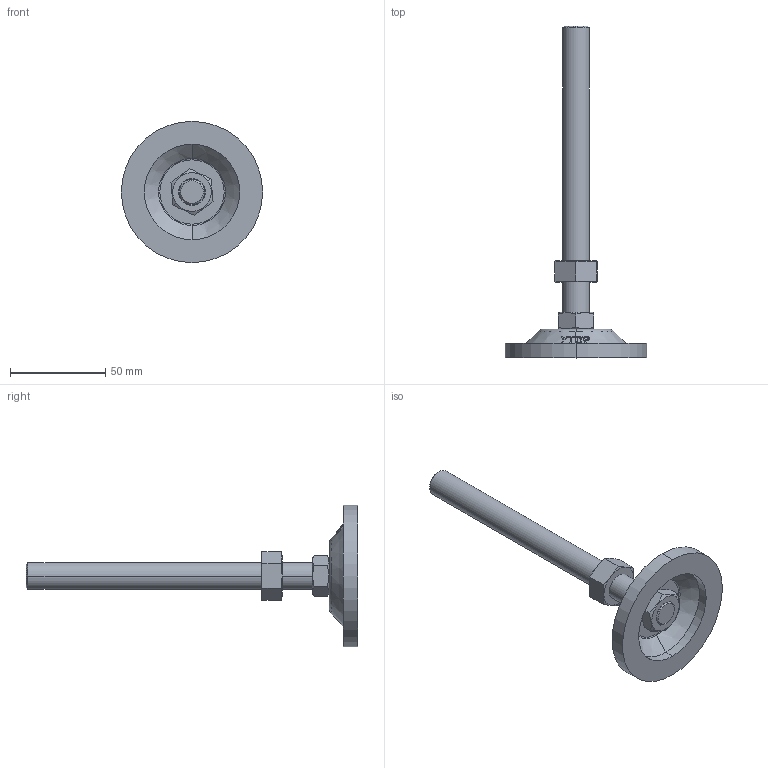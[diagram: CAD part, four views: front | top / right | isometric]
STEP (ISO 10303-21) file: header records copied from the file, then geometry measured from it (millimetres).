
FILE_DESCRIPTION (( 'STEP AP203' ), '1' );
FILE_NAME ('P-74-14150-BR.STEP', '2020-09-10T08:57:45', ( '' ), ( '' ), 'SwSTEP 2.0', 'SolidWorks 2016', '' );
FILE_SCHEMA (( 'CONFIG_CONTROL_DESIGN' ));
Length unit declared in the file: millimetre
Products named in the file (5): 脚垫调节六角螺母M14; hex thin nuts-grades ab-chamfered gb_GB_FASTENER_NUT_STNAB M14-N; P-74-14150-BR; 傲郈蹟裝M14炵蹈_M14X150; P-74-1菁釱-3P
Assembly tree (4 placements, depth 2):
  P-74-14150-BR
    P-74-1菁釱-3P
    傲郈蹟裝M14炵蹈_M14X150
    hex thin nuts-grades ab-chamfered gb_GB_FASTENER_NUT_STNAB M14-N
    脚垫调节六角螺母M14
Bounding box: 74 x 173.9 x 74 mm (x, y, z)
Volume: 56344.2 mm3; surface area: 30637 mm2
Topology: 5 solids, 5 shells, 148 faces, 341 edges, 214 vertices
Faces by surface type: cone 46, bspline 38, plane 34, cylinder 20, torus 10
Entity records: 8200 total; most frequent: CARTESIAN_POINT 4678, ORIENTED_EDGE 682, DIRECTION 509, EDGE_CURVE 341, AXIS2_PLACEMENT_3D 221, VERTEX_POINT 214, B_SPLINE_CURVE_WITH_KNOTS 170, EDGE_LOOP 167
